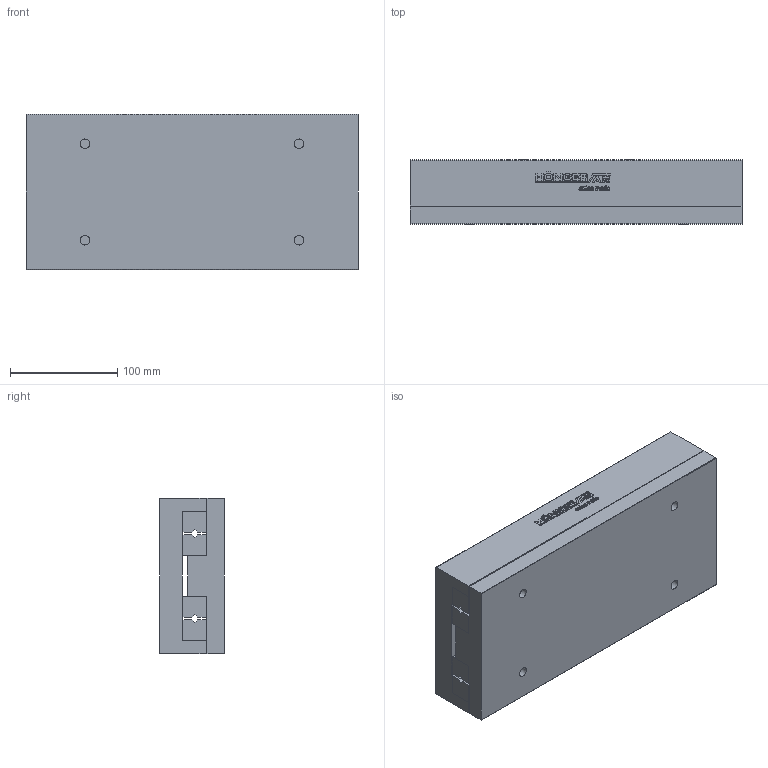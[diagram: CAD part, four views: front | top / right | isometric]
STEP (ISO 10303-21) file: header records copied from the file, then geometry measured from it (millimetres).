
FILE_DESCRIPTION(/* description */ ('STEP AP214'),/* implementation_level */ '2;1');
FILE_NAME(/* name */ 'NK 9-310-B(0)',/* time_stamp */ '2025-04-22T17:52:09+02:00',/* author */ ('License CC BY-ND 4.0'),/* organization */ ('CADENAS'),/* preprocessor_version */ 'ST-DEVELOPER v19.3',/* originating_system */ 'PARTsolutions',/* authorisation */ ' ');
FILE_SCHEMA (('AUTOMOTIVE_DESIGN {1 0 10303 214 3 1 1}'));
Length unit declared in the file: millimetre
Products named in the file (3): NK 9-310-B(0); NK 9-310-B_1; NK 9-310-B_2
Assembly tree (2 placements, depth 2):
  NK 9-310-B(0)
    NK 9-310-B_1
    NK 9-310-B_2
Bounding box: 310 x 60 x 145 mm (x, y, z)
Volume: 2570789.1 mm3; surface area: 319113.2 mm2
Topology: 2 solids, 2 shells, 587 faces, 1644 edges, 1084 vertices
Faces by surface type: cylinder 304, plane 275, cone 8
Full cylindrical faces by diameter (mm): 6.647 x4, 9 x4, 15 x4
Entity records: 18989 total; most frequent: DIRECTION 3420, CARTESIAN_POINT 3282, ORIENTED_EDGE 3232, EDGE_CURVE 1616, AXIS2_PLACEMENT_3D 1214, VERTEX_POINT 1076, LINE 992, VECTOR 992
